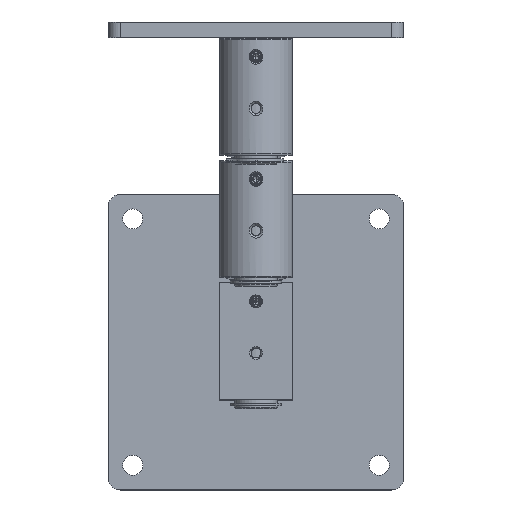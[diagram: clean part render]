
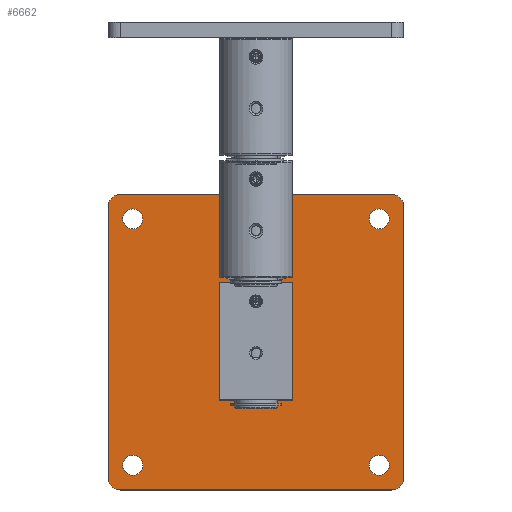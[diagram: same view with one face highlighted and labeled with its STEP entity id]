
A CAD part, top view. The second image highlights one B-rep face of the part: STEP entity #6662.
In plain terms, the highlighted planar face has unit normal (0, 0, 1).
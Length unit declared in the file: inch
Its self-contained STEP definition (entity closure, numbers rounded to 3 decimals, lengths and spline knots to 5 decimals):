
#159 = EDGE_CURVE ( 'NONE', #3585, #1504, #9241, .T. ) ;
#176 = VERTEX_POINT ( 'NONE', #2198 ) ;
#325 = EDGE_CURVE ( 'NONE', #7747, #6171, #5017, .T. ) ;
#334 = CARTESIAN_POINT ( 'NONE',  ( 0.5, -5.5, 0. ) ) ;
#408 = VERTEX_POINT ( 'NONE', #5860 ) ;
#433 = DIRECTION ( 'NONE',  ( 0., 0., 1. ) ) ;
#453 = AXIS2_PLACEMENT_3D ( 'NONE', #3795, #9077, #1533 ) ;
#606 = EDGE_CURVE ( 'NONE', #6694, #408, #10223, .T. ) ;
#642 = CARTESIAN_POINT ( 'NONE',  ( 0.25, -6., 0. ) ) ;
#673 = VECTOR ( 'NONE', #8479, 39.37008 ) ;
#684 = VECTOR ( 'NONE', #4969, 39.37008 ) ;
#701 = FACE_BOUND ( 'NONE', #10444, .T. ) ;
#744 = EDGE_LOOP ( 'NONE', ( #5864, #9965 ) ) ;
#751 = DIRECTION ( 'NONE',  ( 0., 0., 1. ) ) ;
#770 = CARTESIAN_POINT ( 'NONE',  ( 0., -5.75, 0. ) ) ;
#1007 = DIRECTION ( 'NONE',  ( 1., 0., 0. ) ) ;
#1010 = EDGE_CURVE ( 'NONE', #176, #9494, #9072, .T. ) ;
#1039 = EDGE_LOOP ( 'NONE', ( #1321, #7128, #3749, #3200, #5671, #8644, #2671, #5764 ) ) ;
#1117 = CARTESIAN_POINT ( 'NONE',  ( 5.5, -5.5, 0. ) ) ;
#1130 = VERTEX_POINT ( 'NONE', #5521 ) ;
#1134 = EDGE_CURVE ( 'NONE', #9759, #1130, #2734, .T. ) ;
#1203 = AXIS2_PLACEMENT_3D ( 'NONE', #8854, #8032, #7208 ) ;
#1321 = ORIENTED_EDGE ( 'NONE', *, *, #10244, .T. ) ;
#1331 = DIRECTION ( 'NONE',  ( 0., 0., 1. ) ) ;
#1504 = VERTEX_POINT ( 'NONE', #5839 ) ;
#1533 = DIRECTION ( 'NONE',  ( 1., 0., 0. ) ) ;
#1561 = ORIENTED_EDGE ( 'NONE', *, *, #7025, .F. ) ;
#1606 = EDGE_CURVE ( 'NONE', #3048, #6694, #8741, .T. ) ;
#1613 = LINE ( 'NONE', #9166, #684 ) ;
#1683 = AXIS2_PLACEMENT_3D ( 'NONE', #334, #6299, #2156 ) ;
#1732 = AXIS2_PLACEMENT_3D ( 'NONE', #1117, #6797, #1007 ) ;
#2102 = CIRCLE ( 'NONE', #3332, 0.203 ) ;
#2117 = DIRECTION ( 'NONE',  ( 1., 0., 0. ) ) ;
#2156 = DIRECTION ( 'NONE',  ( 1., 0., 0. ) ) ;
#2172 = DIRECTION ( 'NONE',  ( 0., 0., 1. ) ) ;
#2198 = CARTESIAN_POINT ( 'NONE',  ( 0.25, 0., 0. ) ) ;
#2199 = AXIS2_PLACEMENT_3D ( 'NONE', #5419, #2172, #2117 ) ;
#2208 = DIRECTION ( 'NONE',  ( 1., 0., 0. ) ) ;
#2387 = FACE_BOUND ( 'NONE', #5018, .T. ) ;
#2390 = AXIS2_PLACEMENT_3D ( 'NONE', #10488, #9020, #5498 ) ;
#2400 = CARTESIAN_POINT ( 'NONE',  ( 5.703, -0.5, 0. ) ) ;
#2446 = CARTESIAN_POINT ( 'NONE',  ( 0.25, -0.25, 0. ) ) ;
#2671 = ORIENTED_EDGE ( 'NONE', *, *, #8650, .T. ) ;
#2729 = AXIS2_PLACEMENT_3D ( 'NONE', #3736, #433, #5985 ) ;
#2734 = CIRCLE ( 'NONE', #1683, 0.203 ) ;
#2779 = AXIS2_PLACEMENT_3D ( 'NONE', #9285, #6713, #5873 ) ;
#2907 = CARTESIAN_POINT ( 'NONE',  ( 5.297, -5.5, 0. ) ) ;
#2953 = CIRCLE ( 'NONE', #3845, 0.25 ) ;
#3048 = VERTEX_POINT ( 'NONE', #770 ) ;
#3132 = CIRCLE ( 'NONE', #2779, 0.25 ) ;
#3167 = LINE ( 'NONE', #4139, #6133 ) ;
#3200 = ORIENTED_EDGE ( 'NONE', *, *, #9897, .T. ) ;
#3221 = DIRECTION ( 'NONE',  ( 1., 0., 0. ) ) ;
#3332 = AXIS2_PLACEMENT_3D ( 'NONE', #3916, #1331, #2208 ) ;
#3384 = EDGE_CURVE ( 'NONE', #7850, #7034, #2953, .T. ) ;
#3585 = VERTEX_POINT ( 'NONE', #2400 ) ;
#3736 = CARTESIAN_POINT ( 'NONE',  ( 0.5, -0.5, 0. ) ) ;
#3741 = DIRECTION ( 'NONE',  ( 0., 0., 1. ) ) ;
#3749 = ORIENTED_EDGE ( 'NONE', *, *, #606, .T. ) ;
#3786 = CARTESIAN_POINT ( 'NONE',  ( 0.703, -5.5, 0. ) ) ;
#3795 = CARTESIAN_POINT ( 'NONE',  ( 5.5, -0.5, 0. ) ) ;
#3845 = AXIS2_PLACEMENT_3D ( 'NONE', #3855, #3741, #9636 ) ;
#3855 = CARTESIAN_POINT ( 'NONE',  ( 5.75, -0.25, 0. ) ) ;
#3916 = CARTESIAN_POINT ( 'NONE',  ( 5.5, -5.5, 0. ) ) ;
#4012 = AXIS2_PLACEMENT_3D ( 'NONE', #10651, #751, #3221 ) ;
#4139 = CARTESIAN_POINT ( 'NONE',  ( 0., 0., 0. ) ) ;
#4144 = FACE_BOUND ( 'NONE', #6222, .T. ) ;
#4397 = EDGE_CURVE ( 'NONE', #7703, #6117, #2102, .T. ) ;
#4926 = ORIENTED_EDGE ( 'NONE', *, *, #8455, .F. ) ;
#4969 = DIRECTION ( 'NONE',  ( -1., 0., 0. ) ) ;
#4974 = DIRECTION ( 'NONE',  ( 0., -1., 0. ) ) ;
#5017 = CIRCLE ( 'NONE', #2729, 0.203 ) ;
#5018 = EDGE_LOOP ( 'NONE', ( #10087, #1561 ) ) ;
#5235 = DIRECTION ( 'NONE',  ( 0., 0., 1. ) ) ;
#5419 = CARTESIAN_POINT ( 'NONE',  ( 5.5, -0.5, 0. ) ) ;
#5498 = DIRECTION ( 'NONE',  ( 1., 0., 0. ) ) ;
#5521 = CARTESIAN_POINT ( 'NONE',  ( 0.297, -5.5, 0. ) ) ;
#5552 = EDGE_CURVE ( 'NONE', #1130, #9759, #8409, .T. ) ;
#5671 = ORIENTED_EDGE ( 'NONE', *, *, #7844, .T. ) ;
#5685 = ORIENTED_EDGE ( 'NONE', *, *, #325, .F. ) ;
#5764 = ORIENTED_EDGE ( 'NONE', *, *, #1010, .T. ) ;
#5839 = CARTESIAN_POINT ( 'NONE',  ( 5.297, -0.5, 0. ) ) ;
#5860 = CARTESIAN_POINT ( 'NONE',  ( 5.75, -6., 0. ) ) ;
#5864 = ORIENTED_EDGE ( 'NONE', *, *, #4397, .F. ) ;
#5873 = DIRECTION ( 'NONE',  ( 1., 0., 0. ) ) ;
#5931 = CARTESIAN_POINT ( 'NONE',  ( 0.297, -0.5, 0. ) ) ;
#5985 = DIRECTION ( 'NONE',  ( 1., 0., 0. ) ) ;
#6117 = VERTEX_POINT ( 'NONE', #2907 ) ;
#6133 = VECTOR ( 'NONE', #4974, 39.37008 ) ;
#6171 = VERTEX_POINT ( 'NONE', #6652 ) ;
#6185 = CARTESIAN_POINT ( 'NONE',  ( 0.5, -5.5, 0. ) ) ;
#6222 = EDGE_LOOP ( 'NONE', ( #4926, #5685 ) ) ;
#6299 = DIRECTION ( 'NONE',  ( 0., 0., 1. ) ) ;
#6638 = PLANE ( 'NONE',  #4012 ) ;
#6652 = CARTESIAN_POINT ( 'NONE',  ( 0.703, -0.5, 0. ) ) ;
#6662 = ADVANCED_FACE ( 'NONE', ( #701, #9845, #2387, #4144, #9123 ), #6638, .T. ) ;
#6694 = VERTEX_POINT ( 'NONE', #642 ) ;
#6713 = DIRECTION ( 'NONE',  ( 0., 0., 1. ) ) ;
#6797 = DIRECTION ( 'NONE',  ( 0., 0., 1. ) ) ;
#6803 = ORIENTED_EDGE ( 'NONE', *, *, #1134, .F. ) ;
#6923 = ORIENTED_EDGE ( 'NONE', *, *, #5552, .F. ) ;
#6960 = CIRCLE ( 'NONE', #2199, 0.203 ) ;
#7025 = EDGE_CURVE ( 'NONE', #1504, #3585, #6960, .T. ) ;
#7034 = VERTEX_POINT ( 'NONE', #7088 ) ;
#7088 = CARTESIAN_POINT ( 'NONE',  ( 5.75, 0., 0. ) ) ;
#7128 = ORIENTED_EDGE ( 'NONE', *, *, #1606, .T. ) ;
#7195 = AXIS2_PLACEMENT_3D ( 'NONE', #6185, #5235, #9528 ) ;
#7208 = DIRECTION ( 'NONE',  ( 1., 0., 0. ) ) ;
#7227 = VERTEX_POINT ( 'NONE', #8347 ) ;
#7431 = DIRECTION ( 'NONE',  ( 0., 0., 1. ) ) ;
#7703 = VERTEX_POINT ( 'NONE', #10107 ) ;
#7747 = VERTEX_POINT ( 'NONE', #5931 ) ;
#7783 = CARTESIAN_POINT ( 'NONE',  ( 0., -0.25, 0. ) ) ;
#7844 = EDGE_CURVE ( 'NONE', #7227, #7850, #8579, .T. ) ;
#7850 = VERTEX_POINT ( 'NONE', #9512 ) ;
#7867 = CARTESIAN_POINT ( 'NONE',  ( 0., -6., 0. ) ) ;
#8032 = DIRECTION ( 'NONE',  ( 0., 0., 1. ) ) ;
#8347 = CARTESIAN_POINT ( 'NONE',  ( 6., -5.75, 0. ) ) ;
#8409 = CIRCLE ( 'NONE', #7195, 0.203 ) ;
#8455 = EDGE_CURVE ( 'NONE', #6171, #7747, #8780, .T. ) ;
#8479 = DIRECTION ( 'NONE',  ( 0., 1., 0. ) ) ;
#8579 = LINE ( 'NONE', #10330, #673 ) ;
#8644 = ORIENTED_EDGE ( 'NONE', *, *, #3384, .T. ) ;
#8650 = EDGE_CURVE ( 'NONE', #7034, #176, #1613, .T. ) ;
#8741 = CIRCLE ( 'NONE', #2390, 0.25 ) ;
#8780 = CIRCLE ( 'NONE', #1203, 0.203 ) ;
#8854 = CARTESIAN_POINT ( 'NONE',  ( 0.5, -0.5, 0. ) ) ;
#9020 = DIRECTION ( 'NONE',  ( 0., 0., 1. ) ) ;
#9072 = CIRCLE ( 'NONE', #10474, 0.25 ) ;
#9077 = DIRECTION ( 'NONE',  ( 0., 0., 1. ) ) ;
#9123 = FACE_OUTER_BOUND ( 'NONE', #1039, .T. ) ;
#9166 = CARTESIAN_POINT ( 'NONE',  ( 0., 0., 0. ) ) ;
#9241 = CIRCLE ( 'NONE', #453, 0.203 ) ;
#9285 = CARTESIAN_POINT ( 'NONE',  ( 5.75, -5.75, 0. ) ) ;
#9494 = VERTEX_POINT ( 'NONE', #7783 ) ;
#9512 = CARTESIAN_POINT ( 'NONE',  ( 6., -0.25, 0. ) ) ;
#9528 = DIRECTION ( 'NONE',  ( 1., 0., 0. ) ) ;
#9636 = DIRECTION ( 'NONE',  ( 1., 0., 0. ) ) ;
#9659 = CIRCLE ( 'NONE', #1732, 0.203 ) ;
#9759 = VERTEX_POINT ( 'NONE', #3786 ) ;
#9845 = FACE_BOUND ( 'NONE', #744, .T. ) ;
#9889 = DIRECTION ( 'NONE',  ( 1., 0., 0. ) ) ;
#9897 = EDGE_CURVE ( 'NONE', #408, #7227, #3132, .T. ) ;
#9965 = ORIENTED_EDGE ( 'NONE', *, *, #10495, .F. ) ;
#10087 = ORIENTED_EDGE ( 'NONE', *, *, #159, .F. ) ;
#10107 = CARTESIAN_POINT ( 'NONE',  ( 5.703, -5.5, 0. ) ) ;
#10223 = LINE ( 'NONE', #7867, #10466 ) ;
#10244 = EDGE_CURVE ( 'NONE', #9494, #3048, #3167, .T. ) ;
#10330 = CARTESIAN_POINT ( 'NONE',  ( 6., 0., 0. ) ) ;
#10388 = DIRECTION ( 'NONE',  ( 1., 0., 0. ) ) ;
#10444 = EDGE_LOOP ( 'NONE', ( #6803, #6923 ) ) ;
#10466 = VECTOR ( 'NONE', #10388, 39.37008 ) ;
#10474 = AXIS2_PLACEMENT_3D ( 'NONE', #2446, #7431, #9889 ) ;
#10488 = CARTESIAN_POINT ( 'NONE',  ( 0.25, -5.75, 0. ) ) ;
#10495 = EDGE_CURVE ( 'NONE', #6117, #7703, #9659, .T. ) ;
#10651 = CARTESIAN_POINT ( 'NONE',  ( 0., 0., 0. ) ) ;
